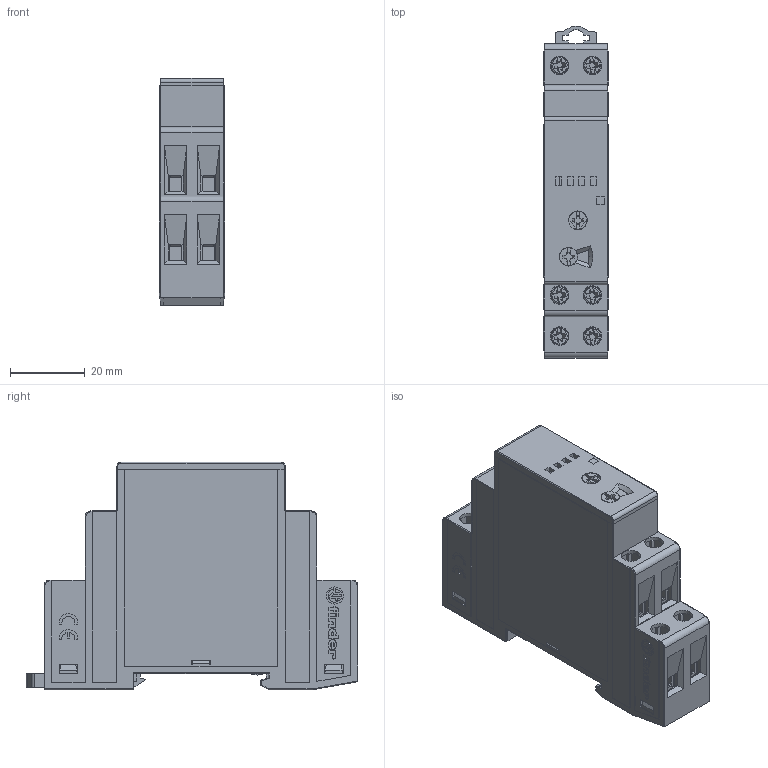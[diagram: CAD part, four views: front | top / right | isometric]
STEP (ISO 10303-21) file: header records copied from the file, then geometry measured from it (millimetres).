
FILE_DESCRIPTION(/* description */ ('Unknown'),/* implementation_level */ '2;1');
FILE_NAME(/* name */ '1361_8_230_0000',/* time_stamp */ '2022-03-23T10:59:52+01:00',/* author */ ('Unknown'),/* organization */ ('Unknown'),/* preprocessor_version */ 'ST-DEVELOPER v16.7',/* originating_system */ 'DEX',/* authorisation */ $);
FILE_SCHEMA (('AUTOMOTIVE_DESIGN {1 0 10303 214 3 1 1}'));
Length unit declared in the file: millimetre
Products named in the file (1): 1361_8_230_0000
Bounding box: 17.5 x 88.85 x 60.8 mm (x, y, z)
Surface area: 20265.6 mm2 (no closed solid volume)
Topology: 0 solids, 46 shells, 1239 faces, 4678 edges, 3354 vertices
Faces by surface type: plane 1009, cylinder 156, bspline 46, torus 24, cone 4
Full cylindrical faces by diameter (mm): 3 x2, 4.566 x2, 4.6 x6, 5 x7
Entity records: 55414 total; most frequent: CARTESIAN_POINT 12108, ORIENTED_EDGE 7441, DIRECTION 7274, EDGE_CURVE 4617, LINE 4084, VECTOR 4084, VERTEX_POINT 3339, AXIS2_PLACEMENT_3D 1595
